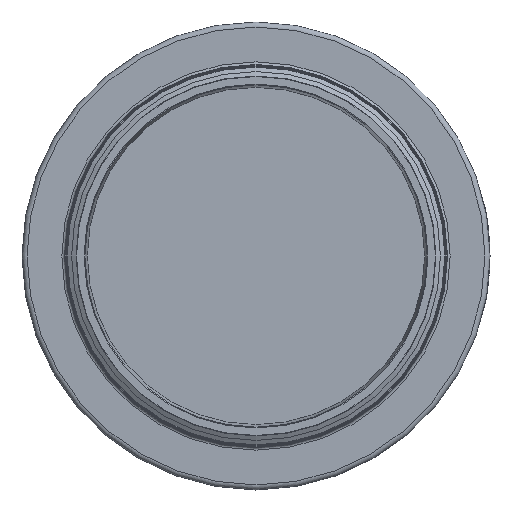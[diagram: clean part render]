
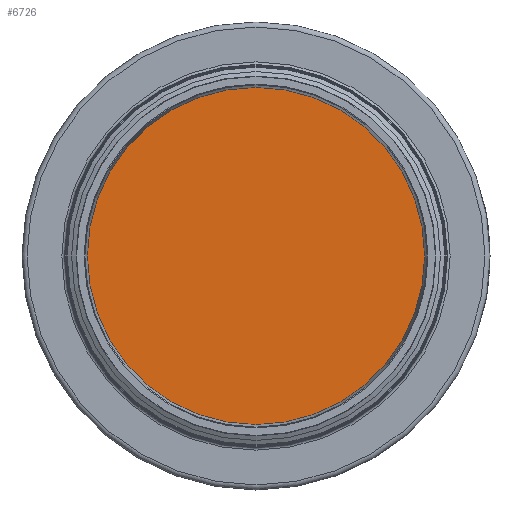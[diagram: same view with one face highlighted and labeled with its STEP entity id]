
A CAD part, left-side view. The second image highlights one B-rep face of the part: STEP entity #6726.
In plain terms, the highlighted planar face has unit normal (-1, 0, 0).
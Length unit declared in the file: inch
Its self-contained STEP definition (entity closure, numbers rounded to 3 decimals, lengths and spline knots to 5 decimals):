
#193=PLANE('',#7210);
#2122=ORIENTED_EDGE('',*,*,#2135,.T.);
#2135=EDGE_CURVE('',#2756,#2756,#3206,.F.);
#2756=VERTEX_POINT('',#8414);
#3206=CIRCLE('',#6741,1.98177);
#3808=EDGE_LOOP('',(#2122));
#4234=FACE_BOUND('',#3808,.T.);
#6726=ADVANCED_FACE('',(#4234),#193,.T.);
#6741=AXIS2_PLACEMENT_3D('',#8413,#7228,#7229);
#7210=AXIS2_PLACEMENT_3D('',#12107,#8385,#8386);
#7228=DIRECTION('',(1.,0.,0.));
#7229=DIRECTION('',(0.,0.,-1.));
#8385=DIRECTION('',(-1.,0.,0.));
#8386=DIRECTION('',(0.,0.,1.));
#8413=CARTESIAN_POINT('',(0.14365,0.,0.));
#8414=CARTESIAN_POINT('',(0.14365,0.,-1.98177));
#12107=CARTESIAN_POINT('',(0.14365,0.,1.295));
